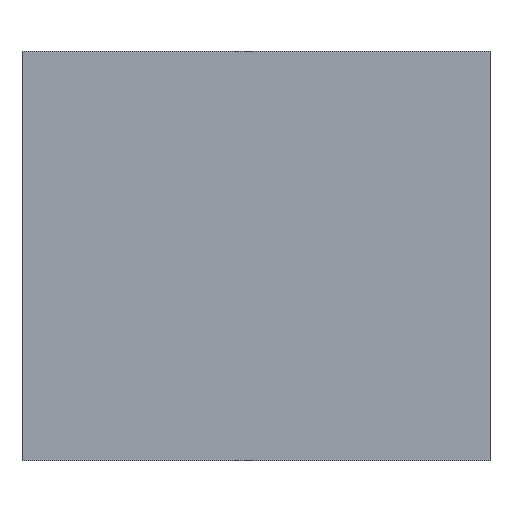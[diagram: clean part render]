
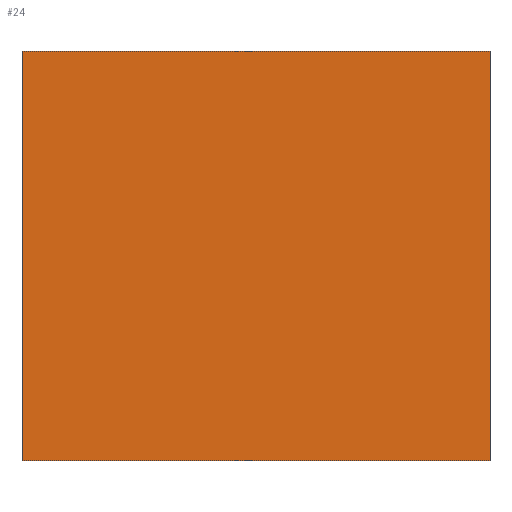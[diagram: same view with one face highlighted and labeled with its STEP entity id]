
A CAD part, left-side view. The second image highlights one B-rep face of the part: STEP entity #24.
In plain terms, the highlighted planar face has unit normal (-1, 0, 0).
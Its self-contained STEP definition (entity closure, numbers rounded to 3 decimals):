
#24=ADVANCED_FACE('',(#30),#182,.T.);
#30=FACE_OUTER_BOUND('',#36,.T.);
#36=EDGE_LOOP('',(#42,#43,#44,#45));
#42=ORIENTED_EDGE('',*,*,#126,.T.);
#43=ORIENTED_EDGE('',*,*,#127,.T.);
#44=ORIENTED_EDGE('',*,*,#128,.T.);
#45=ORIENTED_EDGE('',*,*,#129,.T.);
#66=PCURVE('',#182,#90);
#67=PCURVE('',#182,#91);
#68=PCURVE('',#182,#92);
#69=PCURVE('',#182,#93);
#73=PCURVE('',#183,#97);
#79=PCURVE('',#185,#103);
#85=PCURVE('',#186,#109);
#86=PCURVE('',#187,#110);
#90=DEFINITIONAL_REPRESENTATION('',(#139),#313);
#91=DEFINITIONAL_REPRESENTATION('',(#141),#313);
#92=DEFINITIONAL_REPRESENTATION('',(#143),#313);
#93=DEFINITIONAL_REPRESENTATION('',(#145),#313);
#97=DEFINITIONAL_REPRESENTATION('',(#152),#313);
#103=DEFINITIONAL_REPRESENTATION('',(#162),#313);
#109=DEFINITIONAL_REPRESENTATION('',(#169),#313);
#110=DEFINITIONAL_REPRESENTATION('',(#170),#313);
#114=SURFACE_CURVE('',#138,(#66,#85),.PCURVE_S1.);
#115=SURFACE_CURVE('',#140,(#67,#73),.PCURVE_S1.);
#116=SURFACE_CURVE('',#142,(#68,#86),.PCURVE_S1.);
#117=SURFACE_CURVE('',#144,(#69,#79),.PCURVE_S1.);
#126=EDGE_CURVE('',#174,#175,#114,.T.);
#127=EDGE_CURVE('',#175,#176,#115,.T.);
#128=EDGE_CURVE('',#176,#177,#116,.T.);
#129=EDGE_CURVE('',#177,#174,#117,.T.);
#138=B_SPLINE_CURVE_WITH_KNOTS('',1,(#240,#241),.UNSPECIFIED.,.F.,.F.,(2,
2),(-80.,-60.),.UNSPECIFIED.);
#139=B_SPLINE_CURVE_WITH_KNOTS('',1,(#242,#243),.UNSPECIFIED.,.F.,.F.,(2,
2),(-80.,-60.),.UNSPECIFIED.);
#140=B_SPLINE_CURVE_WITH_KNOTS('',1,(#244,#245),.UNSPECIFIED.,.F.,.F.,(2,
2),(0.,80.),.UNSPECIFIED.);
#141=B_SPLINE_CURVE_WITH_KNOTS('',1,(#246,#247),.UNSPECIFIED.,.F.,.F.,(2,
2),(0.,80.),.UNSPECIFIED.);
#142=B_SPLINE_CURVE_WITH_KNOTS('',1,(#248,#249),.UNSPECIFIED.,.F.,.F.,(2,
2),(60.,80.),.UNSPECIFIED.);
#143=B_SPLINE_CURVE_WITH_KNOTS('',1,(#250,#251),.UNSPECIFIED.,.F.,.F.,(2,
2),(60.,80.),.UNSPECIFIED.);
#144=B_SPLINE_CURVE_WITH_KNOTS('',1,(#252,#253),.UNSPECIFIED.,.F.,.F.,(2,
2),(-80.,0.),.UNSPECIFIED.);
#145=B_SPLINE_CURVE_WITH_KNOTS('',1,(#254,#255),.UNSPECIFIED.,.F.,.F.,(2,
2),(-80.,0.),.UNSPECIFIED.);
#152=B_SPLINE_CURVE_WITH_KNOTS('',1,(#268,#269),.UNSPECIFIED.,.F.,.F.,(2,
2),(0.,80.),.UNSPECIFIED.);
#162=B_SPLINE_CURVE_WITH_KNOTS('',1,(#288,#289),.UNSPECIFIED.,.F.,.F.,(2,
2),(-80.,0.),.UNSPECIFIED.);
#169=B_SPLINE_CURVE_WITH_KNOTS('',1,(#302,#303),.UNSPECIFIED.,.F.,.F.,(2,
2),(-80.,-60.),.UNSPECIFIED.);
#170=B_SPLINE_CURVE_WITH_KNOTS('',1,(#304,#305),.UNSPECIFIED.,.F.,.F.,(2,
2),(60.,80.),.UNSPECIFIED.);
#174=VERTEX_POINT('',#232);
#175=VERTEX_POINT('',#233);
#176=VERTEX_POINT('',#234);
#177=VERTEX_POINT('',#235);
#182=PLANE('',#208);
#183=PLANE('',#209);
#185=PLANE('',#211);
#186=PLANE('',#212);
#187=PLANE('',#213);
#208=AXIS2_PLACEMENT_3D('',#226,#217,$);
#209=AXIS2_PLACEMENT_3D('',#227,#218,$);
#211=AXIS2_PLACEMENT_3D('',#229,#220,$);
#212=AXIS2_PLACEMENT_3D('',#230,#221,$);
#213=AXIS2_PLACEMENT_3D('',#231,#222,$);
#217=DIRECTION('',(-1.,0.,0.));
#218=DIRECTION('',(0.,0.,1.));
#220=DIRECTION('',(0.,0.,-1.));
#221=DIRECTION('',(0.,-1.,0.));
#222=DIRECTION('',(0.,1.,0.));
#226=CARTESIAN_POINT('',(-755.,15.,-16.));
#227=CARTESIAN_POINT('',(-755.,15.,54.));
#229=CARTESIAN_POINT('',(-735.,15.,-16.));
#230=CARTESIAN_POINT('',(-735.,15.,-16.));
#231=CARTESIAN_POINT('',(-735.,95.,-16.));
#232=CARTESIAN_POINT('',(-755.,15.,-16.));
#233=CARTESIAN_POINT('',(-755.,15.,54.));
#234=CARTESIAN_POINT('',(-755.,95.,54.));
#235=CARTESIAN_POINT('',(-755.,95.,-16.));
#240=CARTESIAN_POINT('',(-755.,15.,-16.));
#241=CARTESIAN_POINT('',(-755.,15.,54.));
#242=CARTESIAN_POINT('',(-80.,0.));
#243=CARTESIAN_POINT('',(-60.,0.));
#244=CARTESIAN_POINT('',(-755.,15.,54.));
#245=CARTESIAN_POINT('',(-755.,95.,54.));
#246=CARTESIAN_POINT('',(-60.,0.));
#247=CARTESIAN_POINT('',(-60.,80.));
#248=CARTESIAN_POINT('',(-755.,95.,54.));
#249=CARTESIAN_POINT('',(-755.,95.,-16.));
#250=CARTESIAN_POINT('',(-60.,80.));
#251=CARTESIAN_POINT('',(-80.,80.));
#252=CARTESIAN_POINT('',(-755.,95.,-16.));
#253=CARTESIAN_POINT('',(-755.,15.,-16.));
#254=CARTESIAN_POINT('',(-80.,80.));
#255=CARTESIAN_POINT('',(-80.,0.));
#268=CARTESIAN_POINT('',(-60.,0.));
#269=CARTESIAN_POINT('',(-60.,80.));
#288=CARTESIAN_POINT('',(0.,80.));
#289=CARTESIAN_POINT('',(0.,0.));
#302=CARTESIAN_POINT('',(0.,0.));
#303=CARTESIAN_POINT('',(70.,0.));
#304=CARTESIAN_POINT('',(0.,70.));
#305=CARTESIAN_POINT('',(0.,0.));
#313=(
GEOMETRIC_REPRESENTATION_CONTEXT(2)
PARAMETRIC_REPRESENTATION_CONTEXT()
REPRESENTATION_CONTEXT('pspace','')
);
